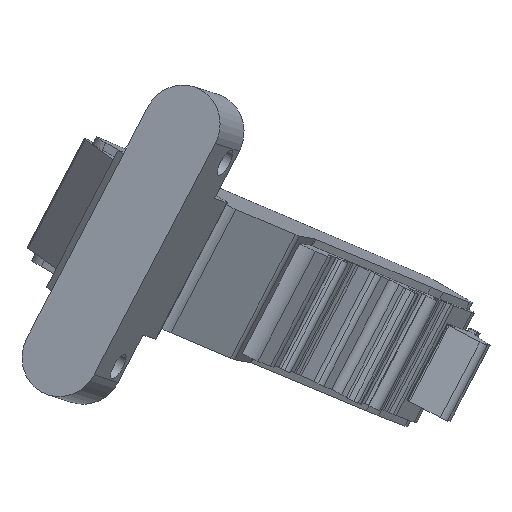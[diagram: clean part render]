
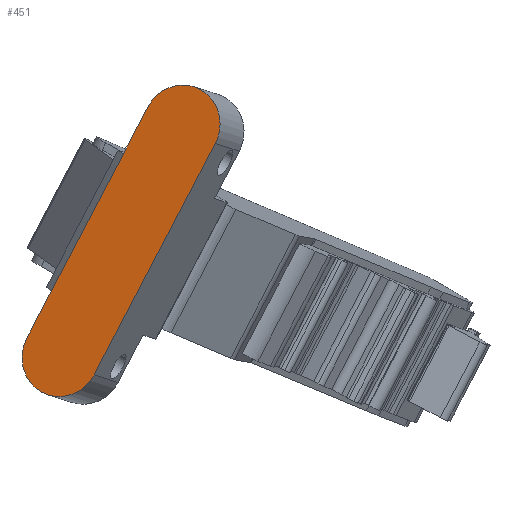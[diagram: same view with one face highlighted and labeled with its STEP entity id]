
A CAD part, isometric view. The second image highlights one B-rep face of the part: STEP entity #451.
In plain terms, the highlighted planar face has unit normal (-0.721, -0.296, 0.626).
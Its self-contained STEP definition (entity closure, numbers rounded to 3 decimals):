
#36 = CARTESIAN_POINT ( 'NONE',  ( -49.02, -15.438, 65.243 ) ) ;
#75 = CARTESIAN_POINT ( 'NONE',  ( -68.766, -20.118, 40.274 ) ) ;
#231 = ORIENTED_EDGE ( 'NONE', *, *, #3219, .T. ) ;
#383 = EDGE_CURVE ( 'NONE', #3636, #9161, #6608, .T. ) ;
#420 = CARTESIAN_POINT ( 'NONE',  ( -47.924, -20.118, 64.292 ) ) ;
#451 = ADVANCED_FACE ( 'NONE', ( #2151 ), #2205, .F. ) ;
#591 = ORIENTED_EDGE ( 'NONE', *, *, #2486, .T. ) ;
#1001 = EDGE_CURVE ( 'NONE', #6815, #3636, #10176, .T. ) ;
#1008 = DIRECTION ( 'NONE',  ( -0.721, -0.296, 0.626 ) ) ;
#1373 = CARTESIAN_POINT ( 'NONE',  ( -68.766, -20.118, 40.274 ) ) ;
#1656 = VECTOR ( 'NONE', #10287, 1000. ) ;
#1686 = CARTESIAN_POINT ( 'NONE',  ( -65.603, -15.438, 46.135 ) ) ;
#2151 = FACE_OUTER_BOUND ( 'NONE', #7574, .T. ) ;
#2205 = PLANE ( 'NONE',  #7524 ) ;
#2292 = DIRECTION ( 'NONE',  ( -0.655, 0., -0.755 ) ) ;
#2326 = AXIS2_PLACEMENT_3D ( 'NONE', #9644, #4189, #8775 ) ;
#2486 = EDGE_CURVE ( 'NONE', #8165, #6815, #6658, .T. ) ;
#2614 = ORIENTED_EDGE ( 'NONE', *, *, #9707, .T. ) ;
#2878 = CIRCLE ( 'NONE', #2326, 4.9 ) ;
#3219 = EDGE_CURVE ( 'NONE', #3734, #8245, #3873, .T. ) ;
#3636 = VERTEX_POINT ( 'NONE', #8175 ) ;
#3734 = VERTEX_POINT ( 'NONE', #4914 ) ;
#3735 = CARTESIAN_POINT ( 'NONE',  ( -69.863, -15.438, 41.226 ) ) ;
#3864 = AXIS2_PLACEMENT_3D ( 'NONE', #75, #1008, #7155 ) ;
#3873 = LINE ( 'NONE', #10010, #9945 ) ;
#3879 = DIRECTION ( 'NONE',  ( -0.655, 0., -0.755 ) ) ;
#3910 = ORIENTED_EDGE ( 'NONE', *, *, #6905, .T. ) ;
#4189 = DIRECTION ( 'NONE',  ( -0.721, -0.296, 0.626 ) ) ;
#4914 = CARTESIAN_POINT ( 'NONE',  ( -67.67, -24.798, 39.323 ) ) ;
#5212 = CARTESIAN_POINT ( 'NONE',  ( -46.827, -24.798, 63.34 ) ) ;
#6608 = CIRCLE ( 'NONE', #3864, 4.9 ) ;
#6658 = LINE ( 'NONE', #10164, #10703 ) ;
#6701 = DIRECTION ( 'NONE',  ( -0.721, -0.296, 0.626 ) ) ;
#6815 = VERTEX_POINT ( 'NONE', #1686 ) ;
#6905 = EDGE_CURVE ( 'NONE', #7195, #8165, #10558, .T. ) ;
#7125 = DIRECTION ( 'NONE',  ( -0.655, 0., -0.755 ) ) ;
#7155 = DIRECTION ( 'NONE',  ( 0.655, 0., 0.755 ) ) ;
#7195 = VERTEX_POINT ( 'NONE', #36 ) ;
#7369 = ORIENTED_EDGE ( 'NONE', *, *, #383, .T. ) ;
#7374 = DIRECTION ( 'NONE',  ( 0.655, 0., 0.755 ) ) ;
#7415 = CARTESIAN_POINT ( 'NONE',  ( -71.978, -20.118, 36.574 ) ) ;
#7469 = CARTESIAN_POINT ( 'NONE',  ( -53.281, -15.438, 60.334 ) ) ;
#7511 = DIRECTION ( 'NONE',  ( 0.655, 0., 0.755 ) ) ;
#7524 = AXIS2_PLACEMENT_3D ( 'NONE', #420, #10866, #3879 ) ;
#7574 = EDGE_LOOP ( 'NONE', ( #3910, #591, #10169, #7369, #2614, #231, #8057 ) ) ;
#8008 = AXIS2_PLACEMENT_3D ( 'NONE', #1373, #6701, #7511 ) ;
#8057 = ORIENTED_EDGE ( 'NONE', *, *, #10763, .T. ) ;
#8165 = VERTEX_POINT ( 'NONE', #7469 ) ;
#8175 = CARTESIAN_POINT ( 'NONE',  ( -69.863, -15.438, 41.226 ) ) ;
#8245 = VERTEX_POINT ( 'NONE', #5212 ) ;
#8433 = VECTOR ( 'NONE', #7125, 1000. ) ;
#8572 = CIRCLE ( 'NONE', #8008, 4.9 ) ;
#8775 = DIRECTION ( 'NONE',  ( -0.655, 0., -0.755 ) ) ;
#9161 = VERTEX_POINT ( 'NONE', #7415 ) ;
#9644 = CARTESIAN_POINT ( 'NONE',  ( -47.924, -20.118, 64.292 ) ) ;
#9707 = EDGE_CURVE ( 'NONE', #9161, #3734, #8572, .T. ) ;
#9945 = VECTOR ( 'NONE', #7374, 1000. ) ;
#10010 = CARTESIAN_POINT ( 'NONE',  ( -67.67, -24.798, 39.323 ) ) ;
#10164 = CARTESIAN_POINT ( 'NONE',  ( -49.02, -15.438, 65.243 ) ) ;
#10169 = ORIENTED_EDGE ( 'NONE', *, *, #1001, .T. ) ;
#10176 = LINE ( 'NONE', #11142, #1656 ) ;
#10287 = DIRECTION ( 'NONE',  ( -0.655, 0., -0.755 ) ) ;
#10558 = LINE ( 'NONE', #3735, #8433 ) ;
#10703 = VECTOR ( 'NONE', #2292, 1000. ) ;
#10763 = EDGE_CURVE ( 'NONE', #8245, #7195, #2878, .T. ) ;
#10866 = DIRECTION ( 'NONE',  ( 0.721, 0.296, -0.626 ) ) ;
#11142 = CARTESIAN_POINT ( 'NONE',  ( -69.863, -15.438, 41.226 ) ) ;
